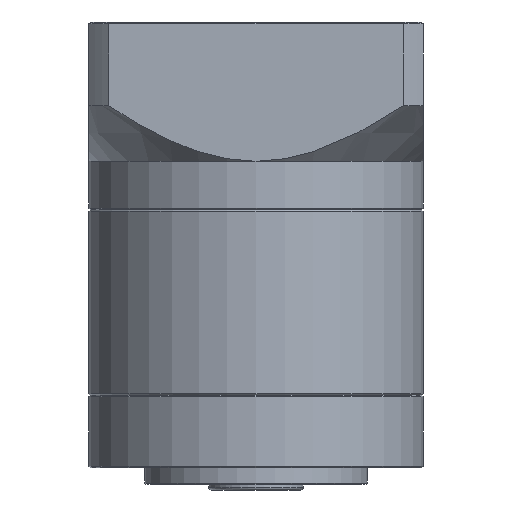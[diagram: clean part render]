
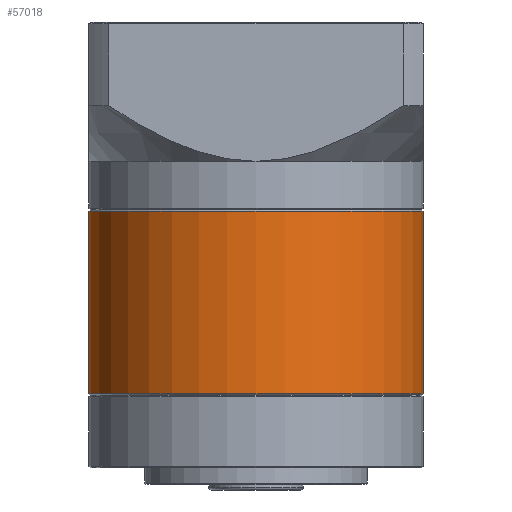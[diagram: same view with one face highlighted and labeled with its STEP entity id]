
A CAD part, front view. The second image highlights one B-rep face of the part: STEP entity #57018.
In plain terms, the highlighted cylindrical face has radius 30 mm (diameter 60 mm), a partial arc.
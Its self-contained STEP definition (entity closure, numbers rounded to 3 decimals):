
#230 = DIRECTION ( 'NONE',  ( 0., 0., -1. ) ) ;
#2409 = EDGE_LOOP ( 'NONE', ( #44257, #21096, #40141, #2953 ) ) ;
#2953 = ORIENTED_EDGE ( 'NONE', *, *, #63660, .T. ) ;
#8177 = LINE ( 'NONE', #96542, #47299 ) ;
#8306 = CIRCLE ( 'NONE', #42702, 30. ) ;
#15611 = VERTEX_POINT ( 'NONE', #48456 ) ;
#21096 = ORIENTED_EDGE ( 'NONE', *, *, #61248, .T. ) ;
#23398 = DIRECTION ( 'NONE',  ( 0., 0., -1. ) ) ;
#31637 = DIRECTION ( 'NONE',  ( -1., 0., 0. ) ) ;
#35804 = CARTESIAN_POINT ( 'NONE',  ( -62.624, 24.461, -60.894 ) ) ;
#40141 = ORIENTED_EDGE ( 'NONE', *, *, #77241, .T. ) ;
#42388 = DIRECTION ( 'NONE',  ( 0., 0., -1. ) ) ;
#42667 = CARTESIAN_POINT ( 'NONE',  ( -92.624, 24.461, -28.094 ) ) ;
#42702 = AXIS2_PLACEMENT_3D ( 'NONE', #35804, #90049, #43636 ) ;
#43085 = CARTESIAN_POINT ( 'NONE',  ( -32.624, 24.461, -60.894 ) ) ;
#43636 = DIRECTION ( 'NONE',  ( 1., 0., 0. ) ) ;
#44257 = ORIENTED_EDGE ( 'NONE', *, *, #46427, .F. ) ;
#46427 = EDGE_CURVE ( 'NONE', #15611, #82153, #95550, .T. ) ;
#47299 = VECTOR ( 'NONE', #42388, 1000. ) ;
#48456 = CARTESIAN_POINT ( 'NONE',  ( -32.624, 24.461, -28.094 ) ) ;
#55181 = CARTESIAN_POINT ( 'NONE',  ( -32.624, 24.461, -27.844 ) ) ;
#57018 = ADVANCED_FACE ( 'NONE', ( #66431 ), #59079, .T. ) ;
#57342 = CARTESIAN_POINT ( 'NONE',  ( -92.624, 24.461, -60.894 ) ) ;
#59079 = CYLINDRICAL_SURFACE ( 'NONE', #95161, 30. ) ;
#61248 = EDGE_CURVE ( 'NONE', #15611, #93360, #64158, .T. ) ;
#63660 = EDGE_CURVE ( 'NONE', #79720, #82153, #8306, .T. ) ;
#64158 = CIRCLE ( 'NONE', #80229, 30. ) ;
#66431 = FACE_OUTER_BOUND ( 'NONE', #2409, .T. ) ;
#70084 = CARTESIAN_POINT ( 'NONE',  ( -62.624, 24.461, -28.094 ) ) ;
#70469 = DIRECTION ( 'NONE',  ( 0., 0., -1. ) ) ;
#77241 = EDGE_CURVE ( 'NONE', #93360, #79720, #8177, .T. ) ;
#77930 = DIRECTION ( 'NONE',  ( 1., 0., 0. ) ) ;
#78320 = CARTESIAN_POINT ( 'NONE',  ( -62.624, 24.461, -27.844 ) ) ;
#79720 = VERTEX_POINT ( 'NONE', #57342 ) ;
#80229 = AXIS2_PLACEMENT_3D ( 'NONE', #70084, #23398, #77930 ) ;
#82153 = VERTEX_POINT ( 'NONE', #43085 ) ;
#90049 = DIRECTION ( 'NONE',  ( 0., 0., 1. ) ) ;
#93131 = VECTOR ( 'NONE', #70469, 1000. ) ;
#93360 = VERTEX_POINT ( 'NONE', #42667 ) ;
#95161 = AXIS2_PLACEMENT_3D ( 'NONE', #78320, #230, #31637 ) ;
#95550 = LINE ( 'NONE', #55181, #93131 ) ;
#96542 = CARTESIAN_POINT ( 'NONE',  ( -92.624, 24.461, -27.844 ) ) ;
